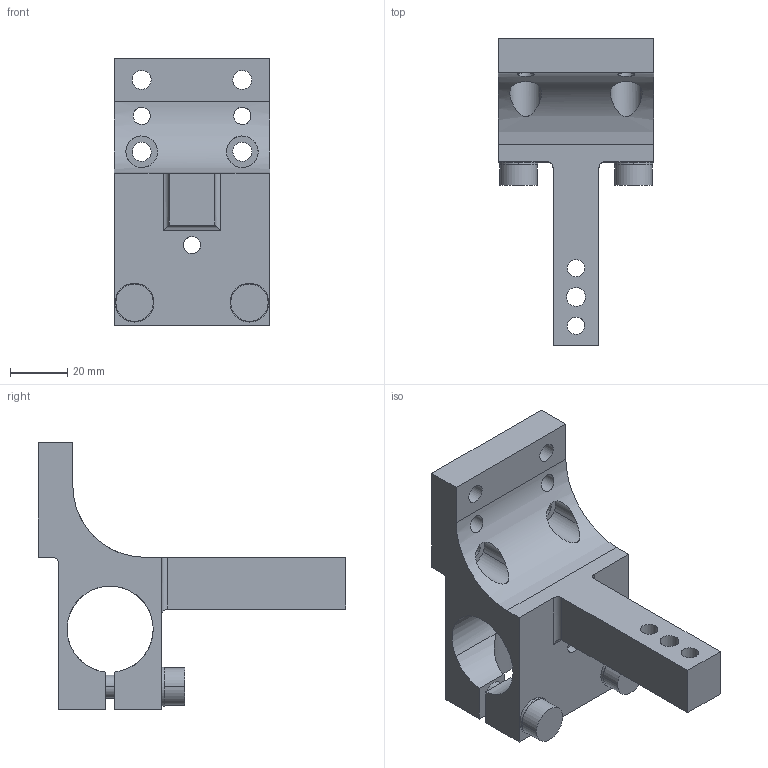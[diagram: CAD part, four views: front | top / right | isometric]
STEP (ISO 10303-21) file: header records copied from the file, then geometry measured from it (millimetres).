
FILE_DESCRIPTION(('CATIA V5 STEP Exchange'),'2;1');
FILE_NAME('\\Uns.com\share\技术部\03-技术资料\03-产品数模\02、抓具\STP\01-八角管抓具STP\连接件\VGT182.stp','2019-05-15T09:04:20+00:00',('none'),('none'),'CATIA Version 5 Release 21 GA (IN-10)','CATIA V5 STEP AP203','none');
FILE_SCHEMA(('CONFIG_CONTROL_DESIGN'));
Length unit declared in the file: millimetre
Products named in the file (1): VGT182
Bounding box: 54 x 107 x 93 mm (x, y, z)
Volume: 94474.2 mm3; surface area: 33399 mm2
Topology: 1 solids, 1 shells, 93 faces, 247 edges, 164 vertices
Faces by surface type: cylinder 63, plane 30
Entity records: 3486 total; most frequent: CARTESIAN_POINT 1257, ORIENTED_EDGE 494, DIRECTION 341, EDGE_CURVE 247, VERTEX_POINT 164, AXIS2_PLACEMENT_3D 150, EDGE_LOOP 127, VECTOR 113
